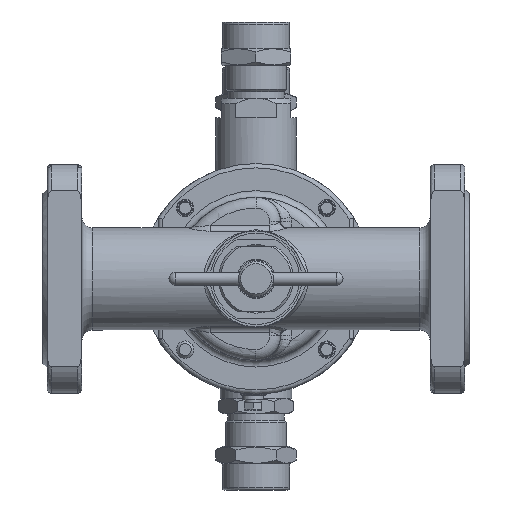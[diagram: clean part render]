
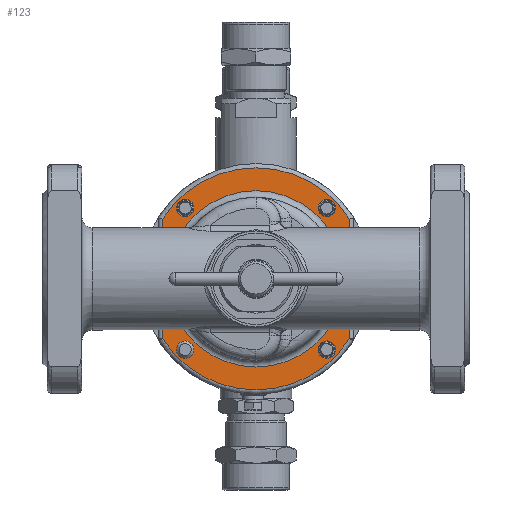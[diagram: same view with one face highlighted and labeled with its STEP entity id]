
A CAD part, front view. The second image highlights one B-rep face of the part: STEP entity #123.
In plain terms, the highlighted planar face has unit normal (0, -1, 0).
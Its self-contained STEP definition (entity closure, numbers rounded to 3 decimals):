
#123=ADVANCED_FACE('',(#5007,#5009,#5011,#5013,#5015,#5017),#5019,.F.);
#5007=FACE_BOUND('',#5008,.T.);
#5008=EDGE_LOOP('',(#23307));
#5009=FACE_BOUND('',#5010,.T.);
#5010=EDGE_LOOP('',(#23308));
#5011=FACE_BOUND('',#5012,.T.);
#5012=EDGE_LOOP('',(#23309));
#5013=FACE_BOUND('',#5014,.T.);
#5014=EDGE_LOOP('',(#23310));
#5015=FACE_BOUND('',#5016,.T.);
#5016=EDGE_LOOP('',(#23311));
#5017=FACE_OUTER_BOUND('',#5018,.T.);
#5018=EDGE_LOOP('',(#23312,#23313,#23314,#23315));
#5019=PLANE('',#5020);
#5020=AXIS2_PLACEMENT_3D('',#5021,#5022,#5023);
#5021=CARTESIAN_POINT('',(0.,30.,0.));
#5022=DIRECTION('',(0.,1.,0.));
#5023=DIRECTION('',(-1.,0.,0.));
#23307=ORIENTED_EDGE('',*,*,#36237,.F.);
#23308=ORIENTED_EDGE('',*,*,#36238,.F.);
#23309=ORIENTED_EDGE('',*,*,#36239,.F.);
#23310=ORIENTED_EDGE('',*,*,#36240,.F.);
#23311=ORIENTED_EDGE('',*,*,#36241,.F.);
#23312=ORIENTED_EDGE('',*,*,#36242,.F.);
#23313=ORIENTED_EDGE('',*,*,#36243,.F.);
#23314=ORIENTED_EDGE('',*,*,#36244,.F.);
#23315=ORIENTED_EDGE('',*,*,#36245,.F.);
#36237=EDGE_CURVE('',#41463,#41463,#41464,.T.);
#36238=EDGE_CURVE('',#41465,#41465,#41466,.T.);
#36239=EDGE_CURVE('',#41467,#41467,#41468,.T.);
#36240=EDGE_CURVE('',#41469,#41469,#41470,.T.);
#36241=EDGE_CURVE('',#41471,#41471,#41472,.T.);
#36242=EDGE_CURVE('',#41473,#41474,#41475,.T.);
#36243=EDGE_CURVE('',#41476,#41473,#41477,.T.);
#36244=EDGE_CURVE('',#41478,#41476,#41479,.T.);
#36245=EDGE_CURVE('',#41474,#41478,#41480,.T.);
#41463=VERTEX_POINT('',#50104);
#41464=CIRCLE('',#50105,4.);
#41465=VERTEX_POINT('',#50109);
#41466=CIRCLE('',#50110,4.);
#41467=VERTEX_POINT('',#50114);
#41468=CIRCLE('',#50115,40.5);
#41469=VERTEX_POINT('',#50119);
#41470=CIRCLE('',#50120,4.);
#41471=VERTEX_POINT('',#50124);
#41472=CIRCLE('',#50125,4.);
#41473=VERTEX_POINT('',#50129);
#41474=VERTEX_POINT('',#50130);
#41475=CIRCLE('',#50131,51.);
#41476=VERTEX_POINT('',#50135);
#41477=LINE('',#50136,#50137);
#41478=VERTEX_POINT('',#50139);
#41479=CIRCLE('',#50140,51.);
#41480=LINE('',#50144,#50145);
#50104=CARTESIAN_POINT('',(-28.806,30.,31.059));
#50105=AXIS2_PLACEMENT_3D('',#50106,#50107,#50108);
#50106=CARTESIAN_POINT('',(-32.527,30.,32.527));
#50107=DIRECTION('',(0.,-1.,0.));
#50108=DIRECTION('',(0.93,0.,-0.367));
#50109=CARTESIAN_POINT('',(28.806,30.,-31.059));
#50110=AXIS2_PLACEMENT_3D('',#50111,#50112,#50113);
#50111=CARTESIAN_POINT('',(32.527,30.,-32.527));
#50112=DIRECTION('',(0.,-1.,0.));
#50113=DIRECTION('',(-0.93,0.,0.367));
#50114=CARTESIAN_POINT('',(-40.5,30.,0.));
#50115=AXIS2_PLACEMENT_3D('',#50116,#50117,#50118);
#50116=CARTESIAN_POINT('',(0.,30.,0.));
#50117=DIRECTION('',(0.,-1.,0.));
#50118=DIRECTION('',(-1.,0.,0.));
#50119=CARTESIAN_POINT('',(-31.059,30.,-28.806));
#50120=AXIS2_PLACEMENT_3D('',#50121,#50122,#50123);
#50121=CARTESIAN_POINT('',(-32.527,30.,-32.527));
#50122=DIRECTION('',(0.,-1.,0.));
#50123=DIRECTION('',(0.367,0.,0.93));
#50124=CARTESIAN_POINT('',(31.059,30.,28.806));
#50125=AXIS2_PLACEMENT_3D('',#50126,#50127,#50128);
#50126=CARTESIAN_POINT('',(32.527,30.,32.527));
#50127=DIRECTION('',(0.,-1.,0.));
#50128=DIRECTION('',(-0.367,0.,-0.93));
#50129=CARTESIAN_POINT('',(43.,30.,-27.423));
#50130=CARTESIAN_POINT('',(-43.,30.,-27.423));
#50131=AXIS2_PLACEMENT_3D('',#50132,#50133,#50134);
#50132=CARTESIAN_POINT('',(0.,30.,0.));
#50133=DIRECTION('',(0.,1.,0.));
#50134=DIRECTION('',(0.843,0.,-0.538));
#50135=CARTESIAN_POINT('',(43.,30.,27.423));
#50136=CARTESIAN_POINT('',(43.,30.,27.423));
#50137=VECTOR('',#50138,1.);
#50138=DIRECTION('',(0.,0.,-1.));
#50139=CARTESIAN_POINT('',(-43.,30.,27.423));
#50140=AXIS2_PLACEMENT_3D('',#50141,#50142,#50143);
#50141=CARTESIAN_POINT('',(0.,30.,0.));
#50142=DIRECTION('',(0.,1.,0.));
#50143=DIRECTION('',(-0.843,0.,0.538));
#50144=CARTESIAN_POINT('',(-43.,30.,-27.423));
#50145=VECTOR('',#50146,1.);
#50146=DIRECTION('',(0.,0.,1.));
